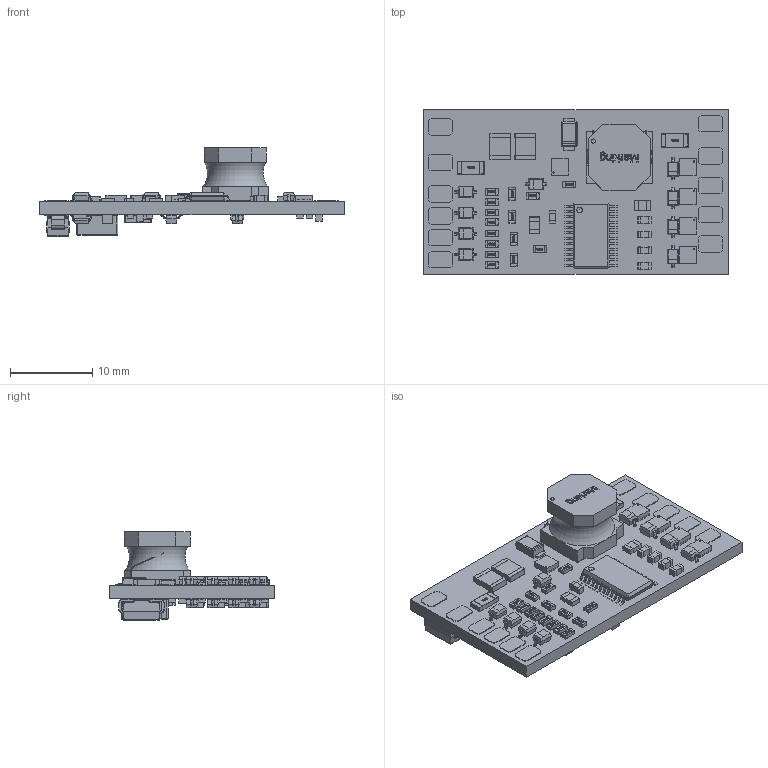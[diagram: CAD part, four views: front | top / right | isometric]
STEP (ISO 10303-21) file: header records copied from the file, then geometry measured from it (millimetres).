
FILE_DESCRIPTION(('Open CASCADE Model'),'2;1');
FILE_NAME('Open CASCADE Shape Model','2022-08-23T11:31:31',('Author'),( 'Open CASCADE'),'Open CASCADE STEP processor 6.8','Open CASCADE 6.8' ,'Unknown');
FILE_SCHEMA(('AUTOMOTIVE_DESIGN { 1 0 10303 214 1 1 1 1 }'));
Length unit declared in the file: millimetre
Products named in the file (124): PCB; Board; Open CASCADE STEP translator 6.8 1.1.1; R33; res_1206; L1; IndLQS_8065; Housing; Glue; Contact; Wire; F1; D13; SOD-323; D12; P15; 6519576192; Extruded; P14; P13; P12; R32; res_0603; R31; R30; R29; R28; R27; R26; R25; R24; R23; R22; R21; R20; R19; R18; R17; Q12; 6896380928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
Assembly tree (200 placements, depth 4):
  PCB
    Board
      Open CASCADE STEP translator 6.8 1.1.1
    R33
      res_1206
    L1
      IndLQS_8065
        Housing
        Glue
        Contact
        Contact
        Wire
        Wire
    F1
      res_1206
    D13
      SOD-323
    D12
      SOD-323
    P15
      6519576192
        Extruded
    P14
      6519576192
        Extruded
    P13
      6519576192
        Extruded
    P12
      6519576192
        Extruded
    R32
      res_0603
    R31
      res_0603
    R30
      res_0603
    R29
      res_0603
    R28
      res_0603
    R27
      res_0603
    R26
      res_0603
    R25
      res_0603
    R24
      res_0603
    R23
      res_0603
    R22
      res_0603
    R21
      res_0603
    R20
      res_0603
    R19
      res_0603
    R18
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Bounding box: 37 x 20 x 10.72 mm (x, y, z)
Volume: 1769.5 mm3; surface area: 3734.7 mm2
Topology: 226 solids, 226 shells, 6145 faces, 15713 edges, 10195 vertices
Faces by surface type: plane 3603, bspline 1725, cylinder 669, sphere 121, extrusion 16, cone 8, torus 3
Full cylindrical faces by diameter (mm): 0.1 x6, 0.5 x1, 5 x2
Entity records: 60140 total; most frequent: CARTESIAN_POINT 16714, ORIENTED_EDGE 7154, DIRECTION 6164, EDGE_CURVE 3577, VECTOR 2324, VERTEX_POINT 2317, LINE 2308, AXIS2_PLACEMENT_3D 1920
